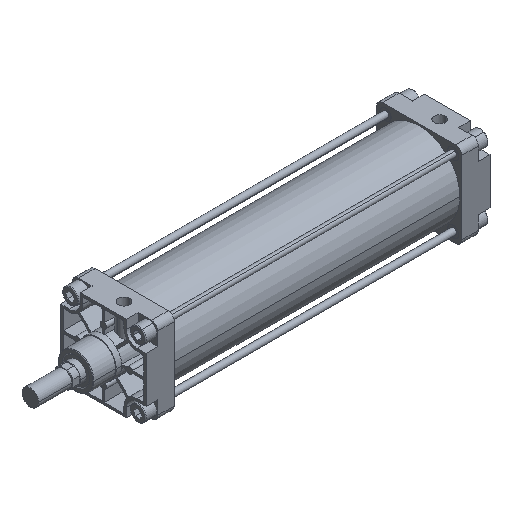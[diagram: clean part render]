
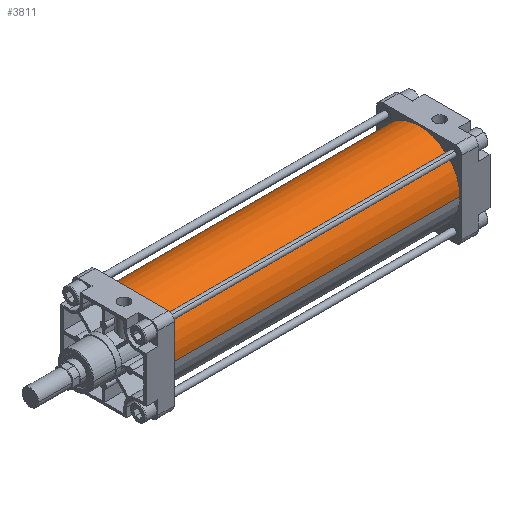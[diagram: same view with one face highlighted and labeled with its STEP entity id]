
A CAD part, isometric view. The second image highlights one B-rep face of the part: STEP entity #3811.
In plain terms, the highlighted cylindrical face has radius 66.5 mm (diameter 133 mm), a partial arc.
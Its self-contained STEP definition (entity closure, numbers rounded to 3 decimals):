
#3206=CARTESIAN_POINT('Vertex',(468.,-66.5,0.)) ;
#3208=CARTESIAN_POINT('Vertex',(468.,66.5,0.)) ;
#3211=CARTESIAN_POINT('Axis2P3D Location',(468.,0.,0.)) ;
#3781=CARTESIAN_POINT('Axis2P3D Location',(234.,0.,0.)) ;
#3786=CARTESIAN_POINT('Line Origine',(234.,66.5,0.)) ;
#3790=CARTESIAN_POINT('Vertex',(0.,66.5,0.)) ;
#3793=CARTESIAN_POINT('Axis2P3D Location',(0.,0.,0.)) ;
#3797=CARTESIAN_POINT('Vertex',(0.,-66.5,0.)) ;
#3800=CARTESIAN_POINT('Line Origine',(234.,-66.5,0.)) ;
#3212=DIRECTION('Axis2P3D Direction',(1.,0.,0.)) ;
#3782=DIRECTION('Axis2P3D Direction',(1.,0.,0.)) ;
#3783=DIRECTION('Axis2P3D XDirection',(0.,1.,0.)) ;
#3787=DIRECTION('Vector Direction',(1.,0.,0.)) ;
#3794=DIRECTION('Axis2P3D Direction',(1.,0.,0.)) ;
#3801=DIRECTION('Vector Direction',(1.,0.,0.)) ;
#3213=AXIS2_PLACEMENT_3D('Circle Axis2P3D',#3211,#3212,$) ;
#3784=AXIS2_PLACEMENT_3D('Cylinder Axis2P3D',#3781,#3782,#3783) ;
#3795=AXIS2_PLACEMENT_3D('Circle Axis2P3D',#3793,#3794,$) ;
#3806=ORIENTED_EDGE('',*,*,#3792,.F.) ;
#3807=ORIENTED_EDGE('',*,*,#3799,.T.) ;
#3808=ORIENTED_EDGE('',*,*,#3804,.T.) ;
#3809=ORIENTED_EDGE('',*,*,#3215,.F.) ;
#3788=VECTOR('Line Direction',#3787,1.) ;
#3802=VECTOR('Line Direction',#3801,1.) ;
#3811=ADVANCED_FACE('PartBody',(#3810),#3785,.T.) ;
#3214=CIRCLE('generated circle',#3213,66.5) ;
#3796=CIRCLE('generated circle',#3795,66.5) ;
#3785=CYLINDRICAL_SURFACE('generated cylinder',#3784,66.5) ;
#3215=EDGE_CURVE('',#3209,#3207,#3214,.T.) ;
#3792=EDGE_CURVE('',#3791,#3209,#3789,.T.) ;
#3799=EDGE_CURVE('',#3791,#3798,#3796,.T.) ;
#3804=EDGE_CURVE('',#3798,#3207,#3803,.T.) ;
#3805=EDGE_LOOP('',(#3806,#3807,#3808,#3809)) ;
#3810=FACE_OUTER_BOUND('',#3805,.T.) ;
#3789=LINE('Line',#3786,#3788) ;
#3803=LINE('Line',#3800,#3802) ;
#3207=VERTEX_POINT('',#3206) ;
#3209=VERTEX_POINT('',#3208) ;
#3791=VERTEX_POINT('',#3790) ;
#3798=VERTEX_POINT('',#3797) ;
